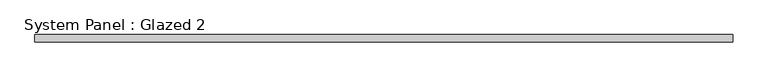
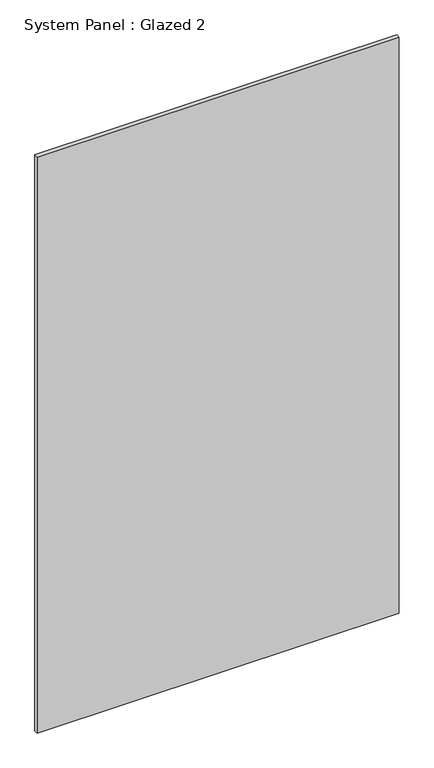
"""IFC4 building model written with IfcOpenShell, lengths in millimetres: plate geometry, System Panel : Glazed 2."""

from ifc_helpers import new_model, si_unit, origin, origin_with_axes, place, context, project, spatial, polyline, outline, extrude, source, transform, mapped, element, save


def system_panel_glazed_2_88c32355(model_context):
    return source(origin(), model_context, "Body", "SweptSolid", [
        extrude(outline(polyline([(620.0, -6.35), (-620.0, -6.35), (-620.0, 6.35), (620.0, 6.35), (620.0, -6.35)])), origin_with_axes(), (0.0, 0.0, 1.0), 2084.1033932),
    ])


if __name__ == "__main__":
    model = new_model("IFC4")
    model_context = context("Model", 3, world=origin())
    ifc_project = project(units=[si_unit("LENGTHUNIT", "METRE", prefix="MILLI")], contexts=[model_context])
    site = spatial("IfcSite", under=ifc_project)
    building = spatial("IfcBuilding", under=site)
    placement = place(None, origin())
    system_panel_glazed_2_shape = system_panel_glazed_2_88c32355(model_context)
    element("IfcPlate", 1, ObjectType="System Panel : Glazed 2", at=placement, inside=building, context=model_context, shape_type="MappedRepresentation", body=[
        mapped(system_panel_glazed_2_shape, transform((0.0, 0.0, 0.0), x_axis=(1.0, 0.0, 0.0), y_axis=(0.0, 1.0, 0.0), z_axis=(0.0, 0.0, 1.0))),
    ])
    save(model, "model.ifc")
